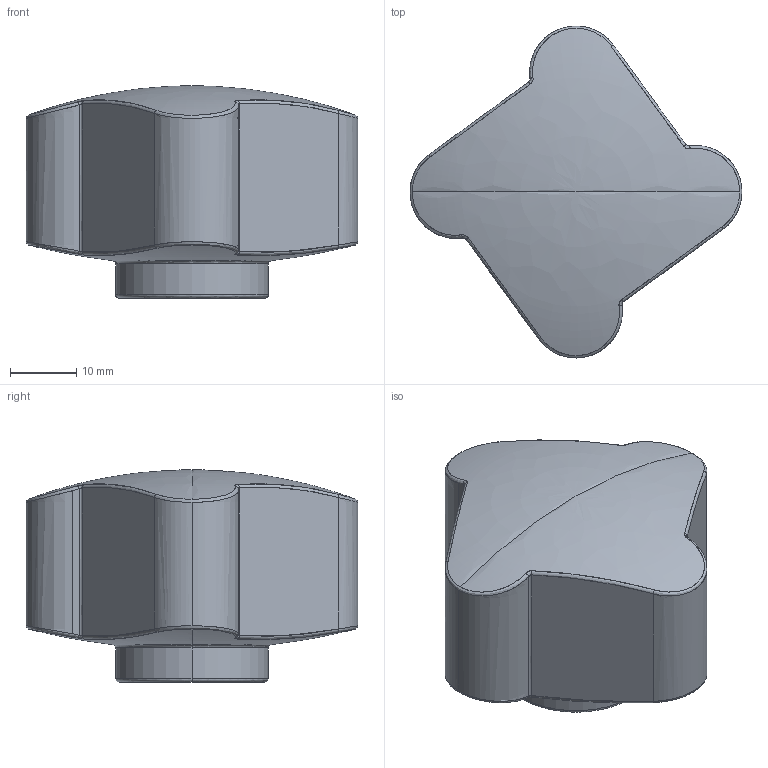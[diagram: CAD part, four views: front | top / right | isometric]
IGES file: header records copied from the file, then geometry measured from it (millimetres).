
Start section: SolidWorks IGES file using analytic representation for surfaces
Global section: file name: C:\Users\Marc\Documents\2 ENGINYERIA\Catalogo 3D\IGS STEP DXF\1120 50 301.IGS; native system: SolidWorks 2010; preprocessor: SolidWorks 2010; author: Marc; date: 101126.163155; units: millimetre
Bounding box: 50 x 50 x 32 mm (x, y, z)
Surface area: 9172.2 mm2 (no closed solid volume)
Topology: 0 solids, 0 shells, 63 faces, 727 edges, 724 vertices
Faces by surface type: bspline 36, revolution 27
